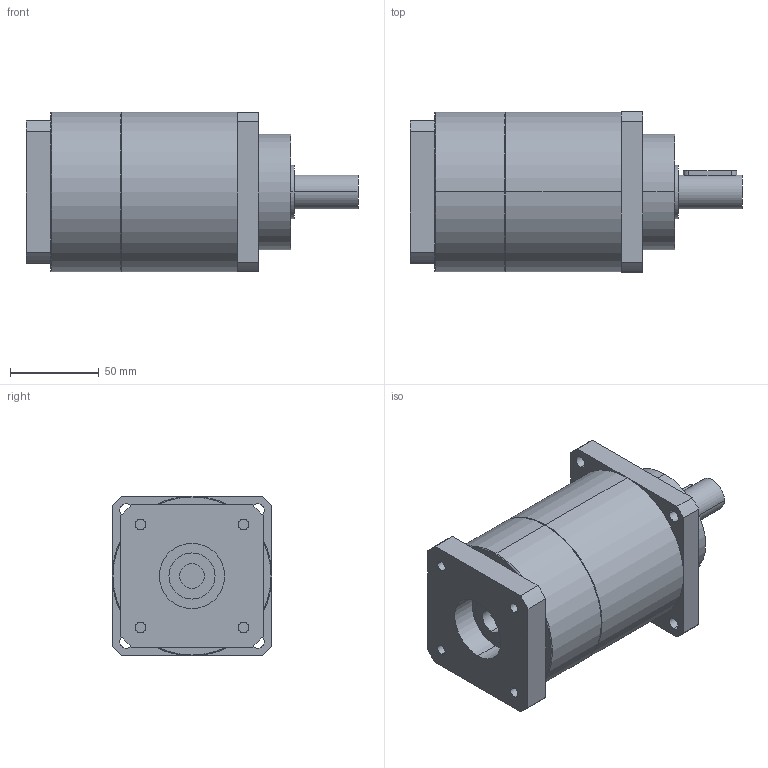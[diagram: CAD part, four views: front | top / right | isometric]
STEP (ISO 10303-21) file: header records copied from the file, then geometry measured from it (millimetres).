
FILE_DESCRIPTION(('CoCreate Modeling STEP Export'),'2;1');
FILE_NAME('GPT90_ig-9-12-16-20-25-28-35-40-50-70-100_19_B5T_14_P27.stp','2015-02-04T11:29:50',(''),(''),'CoCreate Modeling STEP processor for AP214 (Solid Model)','CoCreate Modeling 16.00C 25-Feb-2009 (C) Parametric Technology GmbH','');
FILE_SCHEMA(('AUTOMOTIVE_DESIGN { 1 0 10303 214 1 1 1 1 }'));
Length unit declared in the file: millimetre
Products named in the file (2): GPT90_ig-9-12-16-20-25-28-35-40-50-70-100_19_B5T_14_P27
Assembly tree (1 placements, depth 2):
  GPT90_ig-9-12-16-20-25-28-35-40-50-70-100_19_B5T_14_P27
    GPT90_ig-9-12-16-20-25-28-35-40-50-70-100_19_B5T_14_P27
Bounding box: 187 x 90 x 90 mm (x, y, z)
Volume: 902347.6 mm3; surface area: 67229.9 mm2
Topology: 1 solids, 1 shells, 85 faces, 213 edges, 142 vertices
Faces by surface type: cylinder 44, plane 37, cone 4
Entity records: 2624 total; most frequent: CARTESIAN_POINT 742, ORIENTED_EDGE 426, DIRECTION 320, EDGE_CURVE 213, VERTEX_POINT 142, AXIS2_PLACEMENT_3D 117, EDGE_LOOP 105, VECTOR 86
